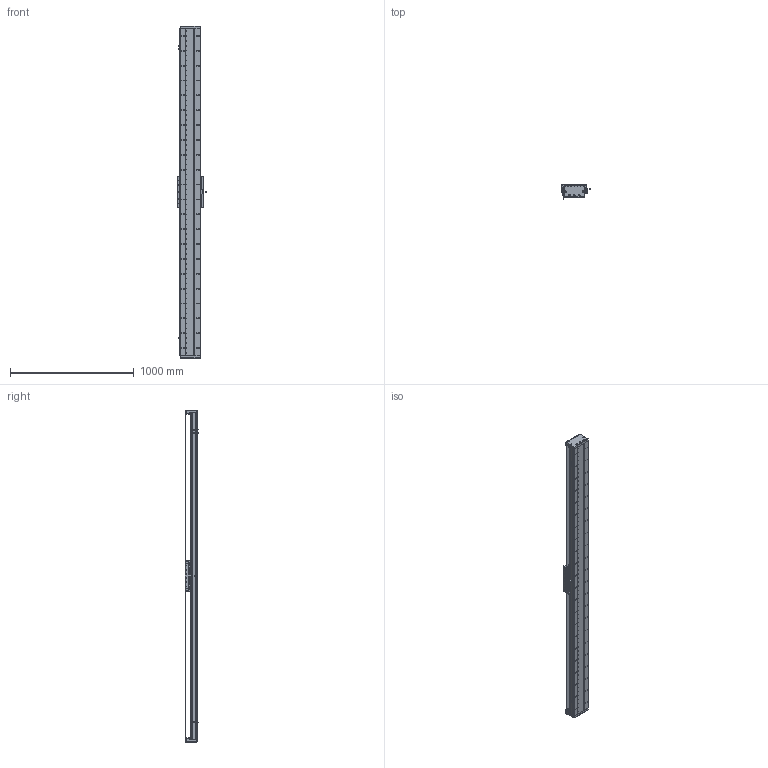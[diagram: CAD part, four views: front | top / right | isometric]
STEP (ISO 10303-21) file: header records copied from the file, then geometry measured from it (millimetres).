
FILE_DESCRIPTION (( 'STEP AP203' ), '1' );
FILE_NAME ('DA-C165-C3-T2340-C010-0.2 直线电机.STEP', '2023-06-13T08:53:05', ( '微软用户' ), ( '微软中国' ), 'SwSTEP 2.0', 'SolidWorks 2019', '' );
FILE_SCHEMA (( 'CONFIG_CONTROL_DESIGN' ));
Length unit declared in the file: millimetre
Products named in the file (18): 复件 DA95-HXJ-00 缓冲橡胶^DA-C165-C3-T-C010-0.2-N 直线电机; 葩璃 CKM01-W075-TRL^DA-C165-C3-T-C010-0.2-N 眻盄萇儂; 葩璃 CKM03-W075-C1C2-TP-3.0^DA-C165-C3-T-C010-0.2-N 眻盄萇儂; 珨极趙賑雄怢啣C3-wf; 复件 DA165-GYP-00 光电感应片^DA-C165-C3-T-C010-0.2-N 直线电机; 复件 CU165 底座^IU-CU165-L 底座导轨_L2640; DA-C165-C3-T2340-C010-0.2 眻盄萇儂; 复件 DA165-GD-1860-002-00 钢带盖板^复件 CU165钢带组件_DA-C165-C3-T-C010-0.2-N 直线电机; 复件 DA165-GD-DG-H-00 端盖^复件 CU165钢带组件_DA-C165-C3-T-C010-0.2-N 直线电机; 复件 DA165-GDYK-00 钢带压块^复件 CU165钢带组件_DA-C165-C3-T-C010-0.2-N 直线电机; 复件 六角薄螺母 M3^DA-C165-C3-T-C010-0.2-N 直线电机_GB_FASTENER_NUT_STNAB M3-C; 葩璃 PM-T45^DA-C165-C3-T-C010-0.2-N 眻盄萇儂; 葩璃 DA95-GT-T-00^IU-CU165-L 菁釱絳寢_T; 复件 DMA-010-0.2 读数头^DA-C165-C3-T-C010-0.2-N 直线电机; 复件 CU165钢带组件^DA-C165-C3-T-C010-0.2-N 直线电机; 复件 XD-U-02L 磁栅尺^DA-C165-C3-T-C010-0.2-N 直线电机_T; 复件 DA165-GDLK-00 钢带拉块^复件 CU165钢带组件_DA-C165-C3-T-C010-0.2-N 直线电机; IU-CU165-L 菁釱絳寢
Assembly tree (35 placements, depth 3):
  DA-C165-C3-T2340-C010-0.2 眻盄萇儂
    IU-CU165-L 菁釱絳寢
      复件 CU165 底座^IU-CU165-L 底座导轨_L2640
      葩璃 DA95-GT-T-00^IU-CU165-L 菁釱絳寢_T  x4
    复件 XD-U-02L 磁栅尺^DA-C165-C3-T-C010-0.2-N 直线电机_T
    葩璃 PM-T45^DA-C165-C3-T-C010-0.2-N 眻盄萇儂  x3
    葩璃 CKM01-W075-TRL^DA-C165-C3-T-C010-0.2-N 眻盄萇儂
    复件 CU165钢带组件^DA-C165-C3-T-C010-0.2-N 直线电机
      复件 DA165-GD-DG-H-00 端盖^复件 CU165钢带组件_DA-C165-C3-T-C010-0.2-N 直线电机  x2
      复件 DA165-GDYK-00 钢带压块^复件 CU165钢带组件_DA-C165-C3-T-C010-0.2-N 直线电机  x2
      复件 DA165-GD-1860-002-00 钢带盖板^复件 CU165钢带组件_DA-C165-C3-T-C010-0.2-N 直线电机
      复件 DA165-GDLK-00 钢带拉块^复件 CU165钢带组件_DA-C165-C3-T-C010-0.2-N 直线电机  x2
    复件 DA95-HXJ-00 缓冲橡胶^DA-C165-C3-T-C010-0.2-N 直线电机  x4
    复件 DA165-GYP-00 光电感应片^DA-C165-C3-T-C010-0.2-N 直线电机
    复件 DMA-010-0.2 读数头^DA-C165-C3-T-C010-0.2-N 直线电机
    葩璃 CKM03-W075-C1C2-TP-3.0^DA-C165-C3-T-C010-0.2-N 眻盄萇儂
    复件 六角薄螺母 M3^DA-C165-C3-T-C010-0.2-N 直线电机_GB_FASTENER_NUT_STNAB M3-C  x8
    珨极趙賑雄怢啣C3-wf
Bounding box: 233 x 111.45 x 2680 mm (x, y, z)
Volume: 15402753.2 mm3; surface area: 4566813 mm2
Topology: 72 solids, 122 shells, 4378 faces, 12543 edges, 7930 vertices
Faces by surface type: cylinder 2536, plane 1216, cone 576, torus 46, sphere 4
Entity records: 144515 total; most frequent: CARTESIAN_POINT 39045, ORIENTED_EDGE 21838, DIRECTION 21379, EDGE_CURVE 10919, AXIS2_PLACEMENT_3D 8220, VERTEX_POINT 7118, EDGE_LOOP 5087, LINE 4939
